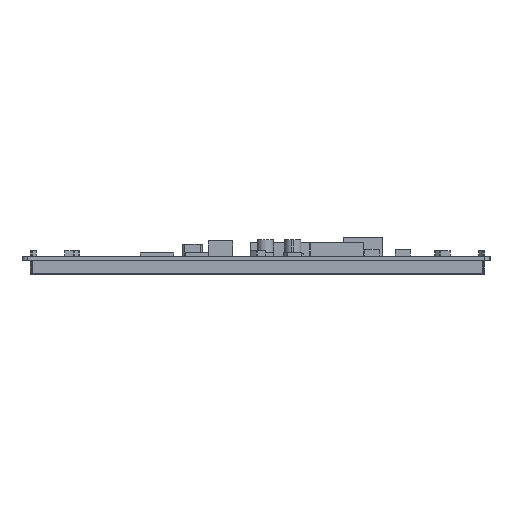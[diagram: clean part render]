
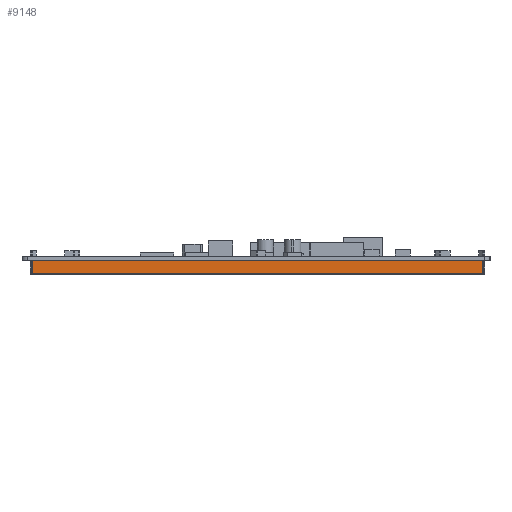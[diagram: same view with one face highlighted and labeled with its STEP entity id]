
A CAD part, left-side view. The second image highlights one B-rep face of the part: STEP entity #9148.
In plain terms, the highlighted planar face has unit normal (-1, 0, 0).
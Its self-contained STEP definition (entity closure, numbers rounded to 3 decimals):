
#9148=ADVANCED_FACE('',(#13931),#11559,.F.);
#11559=PLANE('',#47096);
#13931=FACE_OUTER_BOUND('',#16413,.T.);
#16413=EDGE_LOOP('',(#25341,#25342,#25343,#25344));
#25341=ORIENTED_EDGE('',*,*,#34441,.F.);
#25342=ORIENTED_EDGE('',*,*,#34442,.T.);
#25343=ORIENTED_EDGE('',*,*,#34443,.T.);
#25344=ORIENTED_EDGE('',*,*,#34444,.T.);
#29657=VERTEX_POINT('',#67023);
#29658=VERTEX_POINT('',#67024);
#29659=VERTEX_POINT('',#67026);
#29660=VERTEX_POINT('',#67028);
#34441=EDGE_CURVE('',#29657,#29658,#39423,.T.);
#34442=EDGE_CURVE('',#29657,#29659,#39424,.T.);
#34443=EDGE_CURVE('',#29659,#29660,#39425,.T.);
#34444=EDGE_CURVE('',#29660,#29658,#39426,.T.);
#39423=LINE('',#67022,#44318);
#39424=LINE('',#67025,#44319);
#39425=LINE('',#67027,#44320);
#39426=LINE('',#67029,#44321);
#44318=VECTOR('',#56062,1.);
#44319=VECTOR('',#56063,1.);
#44320=VECTOR('',#56064,1.);
#44321=VECTOR('',#56065,1.);
#47096=AXIS2_PLACEMENT_3D('',#67030,#56066,#56067);
#56062=DIRECTION('',(0.,0.,1.));
#56063=DIRECTION('',(0.,-1.,0.));
#56064=DIRECTION('',(0.,0.,1.));
#56065=DIRECTION('',(0.,1.,0.));
#56066=DIRECTION('',(1.,0.,0.));
#56067=DIRECTION('',(0.,1.,0.));
#67022=CARTESIAN_POINT('',(-94.685,79.608,-6.8));
#67023=CARTESIAN_POINT('',(-94.685,79.608,-6.2));
#67024=CARTESIAN_POINT('',(-94.685,79.608,-1.6));
#67025=CARTESIAN_POINT('',(-94.685,-84.792,-6.2));
#67026=CARTESIAN_POINT('',(-94.685,-84.792,-6.2));
#67027=CARTESIAN_POINT('',(-94.685,-84.792,-6.8));
#67028=CARTESIAN_POINT('',(-94.685,-84.792,-1.6));
#67029=CARTESIAN_POINT('',(-94.685,-84.792,-1.6));
#67030=CARTESIAN_POINT('',(-94.685,-84.792,-6.8));
